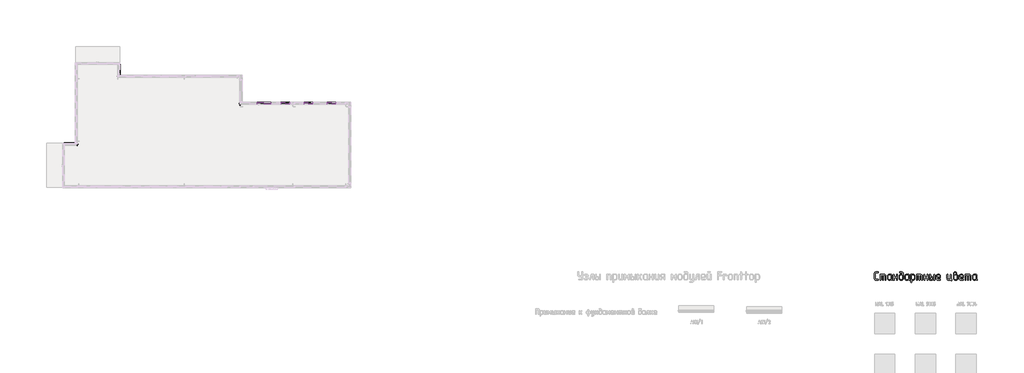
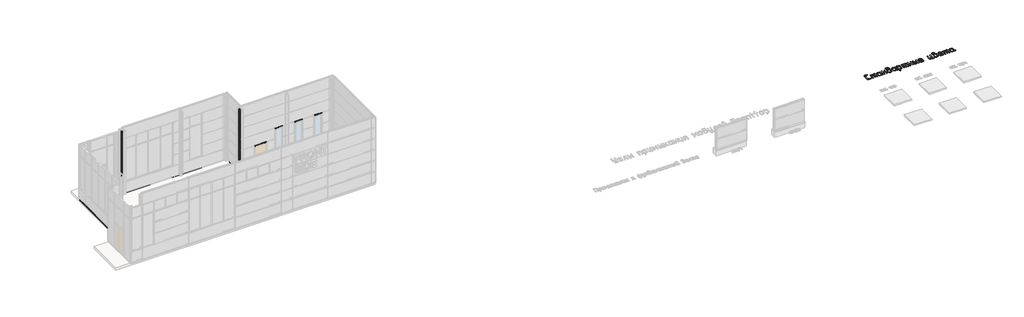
# One storey, part 37 of 37: 25 proxies.
"""IFC4 building model written with IfcOpenShell, lengths in millimetres."""

from ifc_helpers import new_model, si_unit, origin, origin_with_axes, place, context, project, spatial, polyline, outline, extrude, transform, mapped, element, save
from components import generic_models_0364e8e2, generic_models_ac934b32, generic_models_68cd8cda, generic_models_938f7fc3, generic_models_05f7afde, generic_models_0874c4ac, generic_models_85b5dc57, generic_models_e5b9f5c1, generic_models_aaec1445, generic_models_23c99c47, generic_models_617ec701, generic_models_ad8da9b4, generic_models_942eae3e, generic_models_0b12393e, generic_models_e6ec2b4e, generic_models_17419d64, generic_models_769ca0ed, generic_models_10c6125d, generic_models_694dab97

model = new_model("IFC4")

# Units and contexts
model_context = context("Model", 3, world=origin())
ifc_project = project(units=[si_unit("LENGTHUNIT", "METRE", prefix="MILLI")], contexts=[model_context])

# Site, building, storey
site = spatial("IfcSite", under=ifc_project)
building = spatial("IfcBuilding", under=site)
storey = spatial("IfcBuildingStorey", under=building, Name="Этаж 01", Elevation=0.0)

# Proxies
placement = place(None, origin())
element("IfcBuildingElementProxy", 1, Name="600 мм ГОСТ 2.304", ObjectType="600 мм ГОСТ 2.304", at=placement, inside=storey, context=model_context, shape_type="SweptSolid", body=[
    extrude(outline(polyline([(60516.7552555, -6953.9074538), (60365.6845911, -6953.9074538), (60341.4446508, -6951.7555311), (60319.081718, -6945.2997629), (60298.5957927, -6934.5401492), (60279.9868748, -6919.47669), (60264.5252625, -6900.8108931), (60253.4812538, -6880.1543308), (60246.8548485, -6857.5070029), (60244.6460467, -6832.8689095), (60244.6460467, -6470.6633406), (60246.8548485, -6446.4234003), (60253.4812538, -6424.0604675), (60264.5252625, -6403.5745421), (60279.9868748, -6384.9656243), (60298.5957927, -6369.504012), (60319.081718, -6358.4600032), (60341.4446508, -6351.833598), (60365.6845911, -6349.6247962), (60516.7552555, -6349.6247962), (60529.894308, -6351.8430778), (60539.2793455, -6358.4979226), (60544.910368, -6368.4517503), (60546.7873755, -6380.5669805), (60544.79661, -6391.5256708), (60538.8243134, -6401.3467807), (60529.3255179, -6408.2860206), (60516.7552555, -6410.5991005), (60365.6845911, -6410.5991005), (60342.1556385, -6414.902946), (60322.835733, -6427.8144825), (60309.9241965, -6447.134388), (60305.620351, -6470.6633406), (60305.620351, -6832.8689095), (60309.9241965, -6856.5116201), (60322.835733, -6876.1727997), (60342.1556385, -6889.4256103), (60365.6845911, -6893.8432138), (60516.7552555, -6893.8432138), (60529.894308, -6895.9477373), (60539.2793455, -6902.261308), (60544.910368, -6911.8738616), (60546.7873755, -6923.8753338), (60544.79661, -6934.8340241), (60538.8243134, -6944.655134), (60529.3255179, -6951.5943739), (60516.7552555, -6953.9074538)])), origin_with_axes(), (0.0, 0.0, 1.0), 20.0),
    extrude(outline(polyline([(60852.8723161, -6591.701885), (60732.7438359, -6591.701885), (60732.7438359, -6923.8753338), (60730.6393124, -6937.0143863), (60724.3257417, -6946.3994238), (60714.7131881, -6952.0304463), (60702.7117159, -6953.9074538), (60691.0704775, -6951.9166883), (60681.0218514, -6945.9443917), (60674.0826116, -6936.4455962), (60671.7695316, -6923.8753338), (60671.7695316, -6561.6697649), (60673.7034181, -6548.5307124), (60679.5050777, -6539.1456749), (60689.1745103, -6533.5146524), (60702.7117159, -6531.6376449), (60973.9108604, -6531.6376449), (60998.4920748, -6533.7895676), (61020.9687657, -6540.2453359), (61041.340933, -6551.0049496), (61059.6085767, -6566.0684088), (61075.070189, -6584.6773266), (61086.1141978, -6605.1632519), (61092.7406031, -6627.5261847), (61094.9494048, -6651.766125), (61094.9494048, -6923.8753338), (61092.8448813, -6937.0143863), (61086.5313106, -6946.3994238), (61076.918757, -6952.0304463), (61064.9172848, -6953.9074538), (61053.2760463, -6951.9166883), (61043.2274203, -6945.9443917), (61036.2881805, -6936.4455962), (61033.9751005, -6923.8753338), (61033.9751005, -6651.766125), (61029.671255, -6628.8059626), (61016.7597186, -6609.372299), (60997.4398131, -6596.1194885), (60973.9108604, -6591.701885), (60913.8466204, -6591.701885), (60913.8466204, -6923.8753338), (60911.7420968, -6937.0143863), (60905.4285261, -6946.3994238), (60895.8159726, -6952.0304463), (60883.8145003, -6953.9074538), (60872.1732619, -6951.9166883), (60862.1246359, -6945.9443917), (60855.185396, -6936.4455962), (60852.8723161, -6923.8753338), (60852.8723161, -6591.701885)])), origin_with_axes(), (0.0, 0.0, 1.0), 20.0),
    extrude(outline(polyline([(61486.5803842, -6914.1679819), (61468.6824541, -6930.1320255), (61446.8409123, -6942.8350055), (61422.3450164, -6951.1393418), (61396.4840241, -6953.9074538), (61336.4197841, -6953.9074538), (61312.1798437, -6951.7555311), (61289.8169109, -6945.2997629), (61269.3309856, -6934.5401492), (61250.7220678, -6919.47669), (61235.2604555, -6900.8108931), (61224.2164467, -6880.1543308), (61217.5900414, -6857.5070029), (61215.3812397, -6832.8689095), (61215.3812397, -6651.766125), (61217.5900414, -6627.9243378), (61224.2164467, -6605.8458001), (61235.2604555, -6585.5305118), (61250.7220678, -6566.978473), (61269.3309856, -6551.5168607), (61289.8169109, -6540.4728519), (61312.1798437, -6533.8464467), (61336.4197841, -6531.6376449), (61487.4904485, -6531.6376449), (61500.629501, -6533.5146524), (61510.0145385, -6539.1456749), (61515.645561, -6548.5307124), (61517.5225685, -6561.6697649), (61517.5225685, -6832.8689095), (61520.3854789, -6852.416331), (61528.9742102, -6870.4090595), (61542.2270208, -6885.5199179), (61559.082169, -6896.4217291), (61573.6431968, -6907.0770646), (61578.4968728, -6922.9652696), (61576.3923492, -6934.720266), (61570.0787786, -6945.1101662), (61560.466225, -6952.3906801), (61548.4647528, -6954.8175181), (61536.0272081, -6951.3289385), (61508.19441, -6935.3648949), (61486.5803842, -6914.1679819)]), holes=[polyline([(61457.4583284, -6832.8689095), (61457.4583284, -6591.701885), (61336.4197841, -6591.701885), (61312.8908314, -6596.1194885), (61293.5709259, -6609.372299), (61280.6593895, -6628.8059626), (61276.355544, -6651.766125), (61276.355544, -6832.8689095), (61280.6593895, -6856.5116201), (61293.5709259, -6876.1727997), (61312.8908314, -6889.4256103), (61336.4197841, -6893.8432138), (61396.4840241, -6893.8432138), (61420.1267348, -6889.4256103), (61439.7879144, -6876.1727997), (61453.0407249, -6856.5116201), (61457.4583284, -6832.8689095)])]), origin_with_axes(), (0.0, 0.0, 1.0), 20.0),
    extrude(outline(polyline([(61884.5818133, -6712.7404293), (61884.5818133, -6561.6697649), (61886.7811353, -6549.0995026), (61893.379101, -6539.600707), (61903.086453, -6533.6284104), (61914.6139334, -6531.6376449), (61926.0466154, -6533.5146524), (61935.772927, -6539.1456749), (61942.4277718, -6548.5307124), (61944.6460534, -6561.6697649), (61944.6460534, -6923.8753338), (61942.5415298, -6937.0143863), (61936.2279592, -6946.3994238), (61926.6154056, -6952.0304463), (61914.6139334, -6953.9074538), (61903.086453, -6951.9166883), (61893.379101, -6945.9443917), (61886.7811353, -6936.4455962), (61884.5818133, -6923.8753338), (61884.5818133, -6772.8046694), (61703.4790289, -6772.8046694), (61703.4790289, -6923.8753338), (61701.3745053, -6937.0143863), (61695.0609347, -6946.3994238), (61685.4483811, -6952.0304463), (61673.4469089, -6953.9074538), (61661.8056704, -6951.9166883), (61651.7570444, -6945.9443917), (61644.8178045, -6936.4455962), (61642.5047246, -6923.8753338), (61642.5047246, -6561.6697649), (61644.7230062, -6549.0995026), (61651.377851, -6539.600707), (61661.3316786, -6533.6284104), (61673.4469089, -6531.6376449), (61684.4055991, -6533.5146524), (61694.2267091, -6539.1456749), (61701.165949, -6548.5307124), (61703.4790289, -6561.6697649), (61703.4790289, -6712.7404293), (61884.5818133, -6712.7404293)])), origin_with_axes(), (0.0, 0.0, 1.0), 20.0),
    extrude(outline(polyline([(62311.7052983, -6531.6376449), (62311.7052983, -6470.6633406), (62307.2876947, -6447.134388), (62294.0348842, -6427.8144825), (62274.3737046, -6414.902946), (62250.7309939, -6410.5991005), (62130.6025138, -6410.5991005), (62118.0322515, -6408.3997786), (62108.5334559, -6401.8018128), (62102.5611593, -6392.0944609), (62100.5703938, -6380.5669805), (62102.4474013, -6369.0205404), (62108.0784238, -6358.9529547), (62117.4634613, -6351.9568358), (62130.6025138, -6349.6247962), (62250.7309939, -6349.6247962), (62275.3122083, -6351.833598), (62297.7888992, -6358.4600032), (62318.1610665, -6369.504012), (62336.4287102, -6384.9656243), (62351.8903225, -6403.5745421), (62362.9343313, -6424.0604675), (62369.5607366, -6446.4234003), (62371.7695383, -6470.6633406), (62371.7695383, -6832.8689095), (62369.5607366, -6857.5070029), (62362.9343313, -6880.1543308), (62351.8903225, -6900.8108931), (62336.4287102, -6919.47669), (62318.1610665, -6934.5401492), (62297.7888992, -6945.2997629), (62275.3122083, -6951.7555311), (62250.7309939, -6953.9074538), (62190.6667539, -6953.9074538), (62166.4268136, -6951.7555311), (62144.0638807, -6945.2997629), (62123.5779554, -6934.5401492), (62104.9690376, -6919.47669), (62089.5074253, -6900.8108931), (62078.4634165, -6880.1543308), (62071.8370113, -6857.5070029), (62069.6282095, -6832.8689095), (62069.6282095, -6651.766125), (62071.8370113, -6627.9243378), (62078.4634165, -6605.8458001), (62089.5074253, -6585.5305118), (62104.9690376, -6566.978473), (62123.5779554, -6551.5168607), (62144.0638807, -6540.4728519), (62166.4268136, -6533.8464467), (62190.6667539, -6531.6376449), (62311.7052983, -6531.6376449)]), holes=[polyline([(62311.7052983, -6591.701885), (62190.6667539, -6591.701885), (62167.1378013, -6596.1194885), (62147.8178957, -6609.372299), (62134.9063593, -6628.8059626), (62130.6025138, -6651.766125), (62130.6025138, -6832.8689095), (62134.9063593, -6856.5116201), (62147.8178957, -6876.1727997), (62167.1378013, -6889.4256103), (62190.6667539, -6893.8432138), (62250.7309939, -6893.8432138), (62274.3737046, -6889.4256103), (62294.0348842, -6876.1727997), (62307.2876947, -6856.5116201), (62311.7052983, -6832.8689095), (62311.7052983, -6591.701885)])]), origin_with_axes(), (0.0, 0.0, 1.0), 20.0),
    extrude(outline(polyline([(62767.9508389, -6914.1679819), (62750.0529088, -6930.1320255), (62728.211367, -6942.8350055), (62703.7154711, -6951.1393418), (62677.8544788, -6953.9074538), (62617.7902388, -6953.9074538), (62593.5502985, -6951.7555311), (62571.1873657, -6945.2997629), (62550.7014403, -6934.5401492), (62532.0925225, -6919.47669), (62516.6309102, -6900.8108931), (62505.5869014, -6880.1543308), (62498.9604962, -6857.5070029), (62496.7516944, -6832.8689095), (62496.7516944, -6651.766125), (62498.9604962, -6627.9243378), (62505.5869014, -6605.8458001), (62516.6309102, -6585.5305118), (62532.0925225, -6566.978473), (62550.7014403, -6551.5168607), (62571.1873657, -6540.4728519), (62593.5502985, -6533.8464467), (62617.7902388, -6531.6376449), (62768.8609032, -6531.6376449), (62781.9999557, -6533.5146524), (62791.3849932, -6539.1456749), (62797.0160157, -6548.5307124), (62798.8930232, -6561.6697649), (62798.8930232, -6832.8689095), (62801.7559337, -6852.416331), (62810.344665, -6870.4090595), (62823.5974755, -6885.5199179), (62840.4526237, -6896.4217291), (62855.0136516, -6907.0770646), (62859.8673275, -6922.9652696), (62857.762804, -6934.720266), (62851.4492333, -6945.1101662), (62841.8366797, -6952.3906801), (62829.8352075, -6954.8175181), (62817.3976628, -6951.3289385), (62789.5648647, -6935.3648949), (62767.9508389, -6914.1679819)]), holes=[polyline([(62738.8287832, -6832.8689095), (62738.8287832, -6591.701885), (62617.7902388, -6591.701885), (62594.2612862, -6596.1194885), (62574.9413807, -6609.372299), (62562.0298442, -6628.8059626), (62557.7259987, -6651.766125), (62557.7259987, -6832.8689095), (62562.0298442, -6856.5116201), (62574.9413807, -6876.1727997), (62594.2612862, -6889.4256103), (62617.7902388, -6893.8432138), (62677.8544788, -6893.8432138), (62701.4971895, -6889.4256103), (62721.1583691, -6876.1727997), (62734.4111796, -6856.5116201), (62738.8287832, -6832.8689095)])]), origin_with_axes(), (0.0, 0.0, 1.0), 20.0),
    extrude(outline(polyline([(62984.8494836, -6953.9074538), (62984.8494836, -7104.9781182), (62982.7449601, -7118.1171708), (62976.4313894, -7127.5022083), (62966.8188358, -7133.1332308), (62954.8173636, -7135.0102383), (62943.1761251, -7133.0194727), (62933.1274991, -7127.0471761), (62926.1882593, -7117.5483806), (62923.8751793, -7104.9781182), (62923.8751793, -6561.6697649), (62925.8090658, -6548.5307124), (62931.6107254, -6539.1456749), (62941.280158, -6533.5146524), (62954.8173636, -6531.6376449), (63104.9779638, -6531.6376449), (63129.5591782, -6533.7895676), (63152.035869, -6540.2453359), (63172.4080363, -6551.0049496), (63190.67568, -6566.0684088), (63206.1372923, -6584.6773266), (63217.1813011, -6605.1632519), (63223.8077064, -6627.5261847), (63226.0165081, -6651.766125), (63226.0165081, -6832.8689095), (63223.8077064, -6857.5070029), (63217.1813011, -6880.1543308), (63206.1372923, -6900.8108931), (63190.67568, -6919.47669), (63172.4080363, -6934.5401492), (63152.035869, -6945.2997629), (63129.5591782, -6951.7555311), (63104.9779638, -6953.9074538), (62984.8494836, -6953.9074538)]), holes=[polyline([(62984.8494836, -6893.8432138), (63104.9779638, -6893.8432138), (63128.6206744, -6889.4256103), (63148.281854, -6876.1727997), (63161.5346645, -6856.5116201), (63165.9522681, -6832.8689095), (63165.9522681, -6651.766125), (63161.5346645, -6628.8059626), (63148.281854, -6609.372299), (63128.6206744, -6596.1194885), (63104.9779638, -6591.701885), (62984.8494836, -6591.701885), (62984.8494836, -6893.8432138)])]), origin_with_axes(), (0.0, 0.0, 1.0), 20.0),
    extrude(outline(polyline([(63532.1014487, -6591.701885), (63411.9729685, -6591.701885), (63411.9729685, -6923.8753338), (63409.868445, -6937.0143863), (63403.5548743, -6946.3994238), (63393.9423207, -6952.0304463), (63381.9408485, -6953.9074538), (63370.2996101, -6951.9166883), (63360.250984, -6945.9443917), (63353.3117442, -6936.4455962), (63350.9986642, -6923.8753338), (63350.9986642, -6561.6697649), (63352.9325507, -6548.5307124), (63358.7342103, -6539.1456749), (63368.4036429, -6533.5146524), (63381.9408485, -6531.6376449), (63653.139993, -6531.6376449), (63677.7212074, -6533.7895676), (63700.1978983, -6540.2453359), (63720.5700656, -6551.0049496), (63738.8377093, -6566.0684088), (63754.2993216, -6584.6773266), (63765.3433304, -6605.1632519), (63771.9697356, -6627.5261847), (63774.1785374, -6651.766125), (63774.1785374, -6923.8753338), (63772.0740138, -6937.0143863), (63765.7604432, -6946.3994238), (63756.1478896, -6952.0304463), (63744.1464174, -6953.9074538), (63732.5051789, -6951.9166883), (63722.4565529, -6945.9443917), (63715.5173131, -6936.4455962), (63713.2042331, -6923.8753338), (63713.2042331, -6651.766125), (63708.9003876, -6628.8059626), (63695.9888512, -6609.372299), (63676.6689457, -6596.1194885), (63653.139993, -6591.701885), (63593.075753, -6591.701885), (63593.075753, -6923.8753338), (63590.9712294, -6937.0143863), (63584.6576587, -6946.3994238), (63575.0451051, -6952.0304463), (63563.0436329, -6953.9074538), (63551.4023945, -6951.9166883), (63541.3537685, -6945.9443917), (63534.4145286, -6936.4455962), (63532.1014487, -6923.8753338), (63532.1014487, -6591.701885)])), origin_with_axes(), (0.0, 0.0, 1.0), 20.0),
    extrude(outline(polyline([(64136.687461, -6712.7404293), (64136.687461, -6561.6697649), (64138.886783, -6549.0995026), (64145.4847487, -6539.600707), (64155.1921006, -6533.6284104), (64166.7195811, -6531.6376449), (64178.1522631, -6533.5146524), (64187.8785747, -6539.1456749), (64194.5334195, -6548.5307124), (64196.7517011, -6561.6697649), (64196.7517011, -6923.8753338), (64194.6471775, -6937.0143863), (64188.3336068, -6946.3994238), (64178.7210533, -6952.0304463), (64166.7195811, -6953.9074538), (64155.1921006, -6951.9166883), (64145.4847487, -6945.9443917), (64138.886783, -6936.4455962), (64136.687461, -6923.8753338), (64136.687461, -6772.8046694), (63955.5846766, -6772.8046694), (63955.5846766, -6923.8753338), (63953.480153, -6937.0143863), (63947.1665823, -6946.3994238), (63937.5540288, -6952.0304463), (63925.5525566, -6953.9074538), (63913.9113181, -6951.9166883), (63903.8626921, -6945.9443917), (63896.9234522, -6936.4455962), (63894.6103723, -6923.8753338), (63894.6103723, -6561.6697649), (63896.8286539, -6549.0995026), (63903.4834987, -6539.600707), (63913.4373263, -6533.6284104), (63925.5525566, -6531.6376449), (63936.5112468, -6533.5146524), (63946.3323568, -6539.1456749), (63953.2715966, -6548.5307124), (63955.5846766, -6561.6697649), (63955.5846766, -6712.7404293), (64136.687461, -6712.7404293)])), origin_with_axes(), (0.0, 0.0, 1.0), 20.0),
    extrude(outline(polyline([(64683.9394261, -6923.8753338), (64681.8349025, -6937.0143863), (64675.5213318, -6946.3994238), (64665.9087782, -6952.0304463), (64653.907306, -6953.9074538), (64642.9486158, -6951.9166883), (64633.1275058, -6945.9443917), (64626.188266, -6936.4455962), (64623.875186, -6923.8753338), (64623.875186, -6561.6697649), (64626.0745079, -6549.0995026), (64632.6724737, -6539.600707), (64642.3798256, -6533.6284104), (64653.907306, -6531.6376449), (64665.3399881, -6533.5146524), (64675.0662997, -6539.1456749), (64681.7211445, -6548.5307124), (64683.9394261, -6561.6697649), (64683.9394261, -6923.8753338)])), origin_with_axes(), (0.0, 0.0, 1.0), 20.0),
    extrude(outline(polyline([(64382.7081615, -6712.7404293), (64442.7724016, -6712.7404293), (64469.9605708, -6715.0629891), (64494.1910313, -6722.0306685), (64515.463783, -6733.6434674), (64533.7788259, -6749.9013859), (64546.9178784, -6767.3158444), (64556.3029159, -6786.9485845), (64561.9339384, -6808.7996062), (64563.8109459, -6832.8689095), (64561.9339384, -6856.9476926), (64556.3029159, -6878.8271538), (64546.9178784, -6898.507293), (64533.7788259, -6915.9881104), (64515.8050571, -6932.5778231), (64494.6460634, -6944.427618), (64470.3018449, -6951.5374949), (64442.7724016, -6953.9074538), (64352.6760415, -6953.9074538), (64339.1388358, -6952.0304463), (64329.4694033, -6946.3994238), (64323.6677437, -6937.0143863), (64321.7338572, -6923.8753338), (64321.7338572, -6561.6697649), (64323.9521388, -6549.0995026), (64330.6069836, -6539.600707), (64340.5608112, -6533.6284104), (64352.6760415, -6531.6376449), (64363.6347317, -6533.5146524), (64373.4558417, -6539.1456749), (64380.3950815, -6548.5307124), (64382.7081615, -6561.6697649), (64382.7081615, -6712.7404293)]), holes=[polyline([(64382.7081615, -6772.8046694), (64382.7081615, -6893.8432138), (64442.7724016, -6893.8432138), (64467.9129263, -6889.3118522), (64486.9105174, -6875.7177676), (64498.8551106, -6855.94283), (64502.8366416, -6832.8689095), (64499.3101427, -6810.1173034), (64488.7306459, -6791.309309), (64469.2780227, -6777.4308293), (64442.7724016, -6772.8046694), (64382.7081615, -6772.8046694)])]), origin_with_axes(), (0.0, 0.0, 1.0), 20.0),
    extrude(outline(polyline([(64868.075758, -6772.8046694), (64868.075758, -6832.8689095), (64872.3796035, -6856.5116201), (64885.2911399, -6876.1727997), (64904.6110454, -6889.4256103), (64928.139998, -6893.8432138), (65079.2106625, -6893.8432138), (65092.349715, -6895.9477373), (65101.7347525, -6902.261308), (65107.365775, -6911.8738616), (65109.2427825, -6923.8753338), (65107.252017, -6934.8340241), (65101.2797204, -6944.655134), (65091.7809248, -6951.5943739), (65079.2106625, -6953.9074538), (64928.139998, -6953.9074538), (64903.9000577, -6951.7555311), (64881.5371249, -6945.2997629), (64861.0511996, -6934.5401492), (64842.4422818, -6919.47669), (64826.9806695, -6900.8108931), (64815.9366607, -6880.1543308), (64809.3102554, -6857.5070029), (64807.1014537, -6832.8689095), (64807.1014537, -6651.766125), (64809.3102554, -6627.5830637), (64815.9366607, -6605.390768), (64826.9806695, -6585.1892377), (64842.4422818, -6566.978473), (64861.0511996, -6551.5168607), (64881.5371249, -6540.4728519), (64903.9000577, -6533.8464467), (64928.139998, -6531.6376449), (64988.2042381, -6531.6376449), (65012.7854525, -6533.7895676), (65035.2621434, -6540.2453359), (65055.6343106, -6551.0049496), (65073.9019544, -6566.0684088), (65089.3635667, -6584.6773266), (65100.4075755, -6605.1632519), (65107.0339807, -6627.5261847), (65109.2427825, -6651.766125), (65109.2427825, -6742.7725494), (65107.365775, -6755.9116019), (65101.7347525, -6765.2966394), (65092.349715, -6770.9276619), (65079.2106625, -6772.8046694), (64868.075758, -6772.8046694)]), holes=[polyline([(64868.075758, -6712.7404293), (65049.1785424, -6712.7404293), (65049.1785424, -6651.766125), (65044.7609389, -6628.8059626), (65031.5081284, -6609.372299), (65011.8469488, -6596.1194885), (64988.2042381, -6591.701885), (64928.139998, -6591.701885), (64904.6110454, -6596.1194885), (64885.2911399, -6609.372299), (64872.3796035, -6628.8059626), (64868.075758, -6651.766125), (64868.075758, -6712.7404293)])]), origin_with_axes(), (0.0, 0.0, 1.0), 20.0),
    extrude(outline(polyline([(65835.4740487, -6893.8432138), (65835.4740487, -6561.6697649), (65837.6733706, -6549.0995026), (65844.2713364, -6539.600707), (65853.9786883, -6533.6284104), (65865.5061688, -6531.6376449), (65876.9388508, -6533.5146524), (65886.6651624, -6539.1456749), (65893.3200072, -6548.5307124), (65895.5382888, -6561.6697649), (65895.5382888, -6893.8432138), (65925.5704088, -6893.8432138), (65938.7094613, -6895.7202213), (65948.0944988, -6901.3512438), (65953.7255214, -6910.7362813), (65955.6025289, -6923.8753338), (65955.6025289, -6977.7208015), (65953.4980053, -6990.9736121), (65947.1844346, -7000.6999237), (65937.571881, -7006.6722203), (65925.5704088, -7008.6629858), (65914.6117186, -7006.6722203), (65904.7906086, -7000.6999237), (65897.8513687, -6990.9736121), (65895.5382888, -6977.7208015), (65895.5382888, -6953.9074538), (65714.4355044, -6953.9074538), (65690.195564, -6951.7555311), (65667.8326312, -6945.2997629), (65647.3467059, -6934.5401492), (65628.7377881, -6919.47669), (65613.2761758, -6900.8108931), (65602.232167, -6880.1543308), (65595.6057617, -6857.5070029), (65593.39696, -6832.8689095), (65593.39696, -6561.6697649), (65595.6152416, -6549.0995026), (65602.2700864, -6539.600707), (65612.223914, -6533.6284104), (65624.3391443, -6531.6376449), (65635.2978345, -6533.5146524), (65645.1189445, -6539.1456749), (65652.0581843, -6548.5307124), (65654.3712643, -6561.6697649), (65654.3712643, -6832.8689095), (65658.6751098, -6856.5116201), (65671.5866462, -6876.1727997), (65690.9065517, -6889.4256103), (65714.4355044, -6893.8432138), (65835.4740487, -6893.8432138)])), origin_with_axes(), (0.0, 0.0, 1.0), 20.0),
    extrude(outline(polyline([(66259.8673409, -6533.4577734), (66287.1123892, -6535.6096961), (66311.3618093, -6542.0654644), (66332.6156014, -6552.8250781), (66350.8737652, -6567.8885373), (66364.0128178, -6584.7342056), (66373.3978553, -6604.3290263), (66379.0288778, -6626.6729995), (66380.9058853, -6651.766125), (66380.9058853, -6832.8689095), (66378.6970835, -6857.5070029), (66372.0706782, -6880.1543308), (66361.0266695, -6900.8108931), (66345.5650572, -6919.47669), (66327.2974134, -6934.5401492), (66306.9252462, -6945.2997629), (66284.4485553, -6951.7555311), (66259.8673409, -6953.9074538), (66199.8031008, -6953.9074538), (66175.5631605, -6951.7555311), (66153.2002277, -6945.2997629), (66132.7143024, -6934.5401492), (66114.1053846, -6919.47669), (66098.6437723, -6900.8108931), (66087.5997635, -6880.1543308), (66080.9733582, -6857.5070029), (66078.7645565, -6832.8689095), (66078.7645565, -6459.2875375), (66080.9164792, -6434.9243594), (66087.3722474, -6413.1017772), (66098.1318611, -6393.819791), (66113.1953203, -6377.0784009), (66129.1498841, -6365.0674488), (66146.9814554, -6356.4881974), (66166.6900341, -6351.3406465), (66188.2756204, -6349.6247962), (66209.4630536, -6351.3406465), (66228.8872373, -6356.4881974), (66246.5481715, -6365.0674488), (66262.4458563, -6377.0784009), (66277.1775212, -6393.762912), (66287.700139, -6412.8742611), (66294.0137097, -6434.4124482), (66296.1182333, -6458.3774733), (66294.0137097, -6483.1577643), (66287.700139, -6502.8947825), (66276.5328924, -6519.1432212), (66259.8673409, -6533.4577734)]), holes=[polyline([(66320.8416452, -6832.8689095), (66320.8416452, -6651.766125), (66316.4240417, -6628.8059626), (66303.1712311, -6609.372299), (66283.5100516, -6596.1194885), (66259.8673409, -6591.701885), (66199.8031008, -6591.701885), (66176.2741482, -6596.1194885), (66156.9542427, -6609.372299), (66144.0427063, -6628.8059626), (66139.7388608, -6651.766125), (66139.7388608, -6832.8689095), (66144.0427063, -6856.5116201), (66156.9542427, -6876.1727997), (66176.2741482, -6889.4256103), (66199.8031008, -6893.8432138), (66259.8673409, -6893.8432138), (66283.5100516, -6889.4256103), (66303.1712311, -6876.1727997), (66316.4240417, -6856.5116201), (66320.8416452, -6832.8689095)]), polyline([(66139.7388608, -6551.962413), (66153.8448565, -6543.6201574), (66164.4622727, -6536.0362887), (66184.7870408, -6521.4752608), (66199.8031008, -6510.4028126), (66224.5265128, -6488.4095933), (66233.1721231, -6474.0760815), (66236.0539932, -6459.2875375), (66232.4137362, -6438.9058904), (66221.4929653, -6423.8708707), (66205.6805991, -6414.5995913), (66187.3655562, -6411.5091648), (66169.2780293, -6414.5995913), (66153.8448565, -6423.8708707), (66143.2653597, -6438.9058904), (66139.7388608, -6459.2875375), (66139.7388608, -6551.962413)])]), origin_with_axes(), (0.0, 0.0, 1.0), 20.0),
    extrude(outline(polyline([(66566.8623457, -6772.8046694), (66566.8623457, -6832.8689095), (66571.1661912, -6856.5116201), (66584.0777276, -6876.1727997), (66603.3976331, -6889.4256103), (66626.9265857, -6893.8432138), (66777.9972501, -6893.8432138), (66791.1363027, -6895.9477373), (66800.5213402, -6902.261308), (66806.1523627, -6911.8738616), (66808.0293702, -6923.8753338), (66806.0386046, -6934.8340241), (66800.0663081, -6944.655134), (66790.5675125, -6951.5943739), (66777.9972501, -6953.9074538), (66626.9265857, -6953.9074538), (66602.6866454, -6951.7555311), (66580.3237126, -6945.2997629), (66559.8377873, -6934.5401492), (66541.2288695, -6919.47669), (66525.7672572, -6900.8108931), (66514.7232484, -6880.1543308), (66508.0968431, -6857.5070029), (66505.8880414, -6832.8689095), (66505.8880414, -6651.766125), (66508.0968431, -6627.5830637), (66514.7232484, -6605.390768), (66525.7672572, -6585.1892377), (66541.2288695, -6566.978473), (66559.8377873, -6551.5168607), (66580.3237126, -6540.4728519), (66602.6866454, -6533.8464467), (66626.9265857, -6531.6376449), (66686.9908258, -6531.6376449), (66711.5720402, -6533.7895676), (66734.0487311, -6540.2453359), (66754.4208983, -6551.0049496), (66772.6885421, -6566.0684088), (66788.1501544, -6584.6773266), (66799.1941632, -6605.1632519), (66805.8205684, -6627.5261847), (66808.0293702, -6651.766125), (66808.0293702, -6742.7725494), (66806.1523627, -6755.9116019), (66800.5213402, -6765.2966394), (66791.1363027, -6770.9276619), (66777.9972501, -6772.8046694), (66566.8623457, -6772.8046694)]), holes=[polyline([(66566.8623457, -6712.7404293), (66747.9651301, -6712.7404293), (66747.9651301, -6651.766125), (66743.5475266, -6628.8059626), (66730.2947161, -6609.372299), (66710.6335365, -6596.1194885), (66686.9908258, -6591.701885), (66626.9265857, -6591.701885), (66603.3976331, -6596.1194885), (66584.0777276, -6609.372299), (66571.1661912, -6628.8059626), (66566.8623457, -6651.766125), (66566.8623457, -6712.7404293)])]), origin_with_axes(), (0.0, 0.0, 1.0), 20.0),
    extrude(outline(polyline([(67114.1143107, -6591.701885), (66993.9858306, -6591.701885), (66993.9858306, -6923.8753338), (66991.881307, -6937.0143863), (66985.5677363, -6946.3994238), (66975.9551828, -6952.0304463), (66963.9537106, -6953.9074538), (66952.3124721, -6951.9166883), (66942.2638461, -6945.9443917), (66935.3246062, -6936.4455962), (66933.0115263, -6923.8753338), (66933.0115263, -6561.6697649), (66934.9454128, -6548.5307124), (66940.7470723, -6539.1456749), (66950.4165049, -6533.5146524), (66963.9537106, -6531.6376449), (67235.1528551, -6531.6376449), (67259.7340695, -6533.7895676), (67282.2107603, -6540.2453359), (67302.5829276, -6551.0049496), (67320.8505713, -6566.0684088), (67336.3121836, -6584.6773266), (67347.3561924, -6605.1632519), (67353.9825977, -6627.5261847), (67356.1913995, -6651.766125), (67356.1913995, -6923.8753338), (67354.0868759, -6937.0143863), (67347.7733052, -6946.3994238), (67338.1607516, -6952.0304463), (67326.1592794, -6953.9074538), (67314.518041, -6951.9166883), (67304.469415, -6945.9443917), (67297.5301751, -6936.4455962), (67295.2170952, -6923.8753338), (67295.2170952, -6651.766125), (67290.9132497, -6628.8059626), (67278.0017132, -6609.372299), (67258.6818077, -6596.1194885), (67235.1528551, -6591.701885), (67175.088615, -6591.701885), (67175.088615, -6923.8753338), (67172.9840915, -6937.0143863), (67166.6705208, -6946.3994238), (67157.0579672, -6952.0304463), (67145.056495, -6953.9074538), (67133.4152565, -6951.9166883), (67123.3666305, -6945.9443917), (67116.4273907, -6936.4455962), (67114.1143107, -6923.8753338), (67114.1143107, -6591.701885)])), origin_with_axes(), (0.0, 0.0, 1.0), 20.0),
    extrude(outline(polyline([(67747.8223789, -6914.1679819), (67729.9244488, -6930.1320255), (67708.0829069, -6942.8350055), (67683.587011, -6951.1393418), (67657.7260188, -6953.9074538), (67597.6617787, -6953.9074538), (67573.4218384, -6951.7555311), (67551.0589056, -6945.2997629), (67530.5729803, -6934.5401492), (67511.9640625, -6919.47669), (67496.5024502, -6900.8108931), (67485.4584414, -6880.1543308), (67478.8320361, -6857.5070029), (67476.6232343, -6832.8689095), (67476.6232343, -6651.766125), (67478.8320361, -6627.9243378), (67485.4584414, -6605.8458001), (67496.5024502, -6585.5305118), (67511.9640625, -6566.978473), (67530.5729803, -6551.5168607), (67551.0589056, -6540.4728519), (67573.4218384, -6533.8464467), (67597.6617787, -6531.6376449), (67748.7324431, -6531.6376449), (67761.8714956, -6533.5146524), (67771.2565331, -6539.1456749), (67776.8875556, -6548.5307124), (67778.7645631, -6561.6697649), (67778.7645631, -6832.8689095), (67781.6274736, -6852.416331), (67790.2162049, -6870.4090595), (67803.4690154, -6885.5199179), (67820.3241636, -6896.4217291), (67834.8851915, -6907.0770646), (67839.7388675, -6922.9652696), (67837.6343439, -6934.720266), (67831.3207732, -6945.1101662), (67821.7082196, -6952.3906801), (67809.7067474, -6954.8175181), (67797.2692028, -6951.3289385), (67769.4364047, -6935.3648949), (67747.8223789, -6914.1679819)]), holes=[polyline([(67718.7003231, -6832.8689095), (67718.7003231, -6591.701885), (67597.6617787, -6591.701885), (67574.1328261, -6596.1194885), (67554.8129206, -6609.372299), (67541.9013841, -6628.8059626), (67537.5975386, -6651.766125), (67537.5975386, -6832.8689095), (67541.9013841, -6856.5116201), (67554.8129206, -6876.1727997), (67574.1328261, -6889.4256103), (67597.6617787, -6893.8432138), (67657.7260188, -6893.8432138), (67681.3687294, -6889.4256103), (67701.029909, -6876.1727997), (67714.2827196, -6856.5116201), (67718.7003231, -6832.8689095)])]), origin_with_axes(), (0.0, 0.0, 1.0), 20.0),
])
generic_models_shape = generic_models_0364e8e2(model_context)
element("IfcBuildingElementProxy", 2, Name="АК1_1 Примыкание к фундаментной балке : АК1_1 Примыкание к фундаментной балке", ObjectType="АК1_1 Примыкание к фундаментной балке : АК1_1 Примыкание к фундаментной балке", at=placement, inside=storey, context=model_context, shape_type="MappedRepresentation", body=[
    mapped(generic_models_shape, transform((21620.0, 6120.0, 0.0), x_axis=(-1.0, 0.0, 0.0), y_axis=(0.0, -1.0, 0.0), z_axis=(0.0, 0.0, 1.0))),
])
generic_models_2_shape = generic_models_ac934b32(model_context)
element("IfcBuildingElementProxy", 3, Name="АК1_1 Примыкание к фундаментной балке : АК1_1 Примыкание к фундаментной балке", ObjectType="АК1_1 Примыкание к фундаментной балке : АК1_1 Примыкание к фундаментной балке", at=placement, inside=storey, context=model_context, shape_type="MappedRepresentation", body=[
    mapped(generic_models_2_shape, transform((13620.0578348, 6120.0, 0.0), x_axis=(0.0, 1.0, 0.0), y_axis=(-1.0, 0.0, 0.0), z_axis=(0.0, 0.0, 1.0))),
])
generic_models_3_shape = generic_models_68cd8cda(model_context)
element("IfcBuildingElementProxy", 4, Name="АК1_1 Примыкание к фундаментной балке : АК1_1 Примыкание к фундаментной балке", ObjectType="АК1_1 Примыкание к фундаментной балке : АК1_1 Примыкание к фундаментной балке", at=placement, inside=storey, context=model_context, shape_type="MappedRepresentation", body=[
    mapped(generic_models_3_shape, transform((13620.0578348, 8120.0, 0.0), x_axis=(-1.0, 0.0, 0.0), y_axis=(0.0, -1.0, 0.0), z_axis=(0.0, 0.0, 1.0))),
])
generic_models_4_shape = generic_models_938f7fc3(model_context)
element("IfcBuildingElementProxy", 5, Name="АК1_1 Примыкание к фундаментной балке : АК1_1 Примыкание к фундаментной балке", ObjectType="АК1_1 Примыкание к фундаментной балке : АК1_1 Примыкание к фундаментной балке", at=placement, inside=storey, context=model_context, shape_type="MappedRepresentation", body=[
    mapped(generic_models_4_shape, transform((4620.0, 8120.0, 0.0), x_axis=(0.0, 1.0, 0.0), y_axis=(-1.0, 0.0, 0.0), z_axis=(0.0, 0.0, 1.0))),
])
element("IfcBuildingElementProxy", 6, Name="АК1_1 Примыкание к фундаментной балке : АК1_1 Примыкание к фундаментной балке", ObjectType="АК1_1 Примыкание к фундаментной балке : АК1_1 Примыкание к фундаментной балке", at=placement, inside=storey, context=model_context, shape_type="MappedRepresentation", body=[
    mapped(generic_models_4_shape, transform((1380.0, 3120.0, 0.0), x_axis=(-1.0, 0.0, 0.0), y_axis=(0.0, -1.0, 0.0), z_axis=(0.0, 0.0, 1.0))),
])
generic_models_5_shape = generic_models_05f7afde(model_context)
element("IfcBuildingElementProxy", 7, Name="АК1_1 Примыкание к фундаментной балке : АК1_1 Примыкание к фундаментной балке", ObjectType="АК1_1 Примыкание к фундаментной балке : АК1_1 Примыкание к фундаментной балке", at=placement, inside=storey, context=model_context, shape_type="MappedRepresentation", body=[
    mapped(generic_models_5_shape, transform((1380.0, 8960.0, 0.0), x_axis=(0.0, -1.0, 0.0), y_axis=(1.0, 0.0, 0.0), z_axis=(0.0, 0.0, 1.0))),
])
generic_models_6_shape = generic_models_0874c4ac(model_context)
element("IfcBuildingElementProxy", 8, Name="АК3_1 Обрамление внутреннего угла : АК3_1 Обрамление внутреннего угла", ObjectType="АК3_1 Обрамление внутреннего угла : АК3_1 Обрамление внутреннего угла", at=placement, inside=storey, context=model_context, shape_type="MappedRepresentation", body=[
    mapped(generic_models_6_shape, transform((13500.1735992, 6065.0577046, 0.6641601), x_axis=(0.0, 0.0, 1.0), y_axis=(0.0, 1.0, 0.0), z_axis=(-1.0, 0.0, 0.0))),
])
generic_models_7_shape = generic_models_85b5dc57(model_context)
element("IfcBuildingElementProxy", 9, Name="АК3_1 Обрамление внутреннего угла : АК3_1 Обрамление внутреннего угла", ObjectType="АК3_1 Обрамление внутреннего угла : АК3_1 Обрамление внутреннего угла", at=placement, inside=storey, context=model_context, shape_type="MappedRepresentation", body=[
    mapped(generic_models_7_shape, transform((4500.0, 8065.0577046, 3.3441558), x_axis=(0.0, 0.0, 1.0), y_axis=(0.0, 1.0, 0.0), z_axis=(-1.0, 0.0, 0.0))),
])
generic_models_8_shape = generic_models_e5b9f5c1(model_context)
element("IfcBuildingElementProxy", 10, Name="АК3_1 Обрамление внутреннего угла : АК3_1 Обрамление внутреннего угла", ObjectType="АК3_1 Обрамление внутреннего угла : АК3_1 Обрамление внутреннего угла", at=placement, inside=storey, context=model_context, shape_type="MappedRepresentation", body=[
    mapped(generic_models_8_shape, transform((1500.0578348, 3065.0, 0.2672417), x_axis=(0.0, 0.0, 1.0), y_axis=(-1.0, 0.0, 0.0), z_axis=(0.0, -1.0, 0.0))),
])
generic_models_9_shape = generic_models_aaec1445(model_context)
element("IfcBuildingElementProxy", 11, Name="АК7_1 бок Обрамление оконного_дверного проема : АК7_1 бок Обрамление оконного_дверного проема", ObjectType="АК7_1 бок Обрамление оконного_дверного проема : АК7_1 бок Обрамление оконного_дверного проема", at=placement, inside=storey, context=model_context, shape_type="MappedRepresentation", body=[
    mapped(generic_models_9_shape, transform((20590.0, 6125.0, 997.0), x_axis=(0.0, 0.0, 1.0), y_axis=(1.0, 0.0, 0.0), z_axis=(0.0, 1.0, 0.0))),
])
generic_models_10_shape = generic_models_23c99c47(model_context)
element("IfcBuildingElementProxy", 12, Name="АК7_1 бок Обрамление оконного_дверного проема : АК7_1 бок Обрамление оконного_дверного проема", ObjectType="АК7_1 бок Обрамление оконного_дверного проема : АК7_1 бок Обрамление оконного_дверного проема", at=placement, inside=storey, context=model_context, shape_type="MappedRepresentation", body=[
    mapped(generic_models_10_shape, transform((19890.0, 6125.0, 997.0), x_axis=(0.0, 0.0, 1.0), y_axis=(1.0, 0.0, 0.0), z_axis=(0.0, 1.0, 0.0))),
])
generic_models_11_shape = generic_models_617ec701(model_context)
element("IfcBuildingElementProxy", 13, Name="АК7_1 низ Обрамление оконного_дверного проема : АК7_1 низ Обрамление оконного_дверного проема", ObjectType="АК7_1 низ Обрамление оконного_дверного проема : АК7_1 низ Обрамление оконного_дверного проема", at=placement, inside=storey, context=model_context, shape_type="MappedRepresentation", body=[
    mapped(generic_models_11_shape, transform((20547.5, 6150.0, 994.0), x_axis=(-1.0, 0.0, 0.0), y_axis=(0.0, 0.0, 1.0), z_axis=(0.0, 1.0, 0.0))),
])
element("IfcBuildingElementProxy", 14, Name="АК7_1 низ Обрамление оконного_дверного проема : АК7_1 низ Обрамление оконного_дверного проема", ObjectType="АК7_1 низ Обрамление оконного_дверного проема : АК7_1 низ Обрамление оконного_дверного проема", at=placement, inside=storey, context=model_context, shape_type="MappedRepresentation", body=[
    mapped(generic_models_11_shape, transform((18847.5, 6150.0, 993.9600528), x_axis=(-1.0, 0.0, 0.0), y_axis=(0.0, 0.0, 1.0), z_axis=(0.0, 1.0, 0.0))),
])
element("IfcBuildingElementProxy", 15, Name="АК7_1 низ Обрамление оконного_дверного проема : АК7_1 низ Обрамление оконного_дверного проема", ObjectType="АК7_1 низ Обрамление оконного_дверного проема : АК7_1 низ Обрамление оконного_дверного проема", at=placement, inside=storey, context=model_context, shape_type="MappedRepresentation", body=[
    mapped(generic_models_11_shape, transform((17147.5, 6150.0, 993.7100557), x_axis=(-1.0, 0.0, 0.0), y_axis=(0.0, 0.0, 1.0), z_axis=(0.0, 1.0, 0.0))),
])
generic_models_12_shape = generic_models_ad8da9b4(model_context)
element("IfcBuildingElementProxy", 16, Name="АК7_1 верх Обрамление оконного_дверного проема : АК7_1 верх Обрамление оконного_дверного проема", ObjectType="АК7_1 верх Обрамление оконного_дверного проема : АК7_1 верх Обрамление оконного_дверного проема", at=placement, inside=storey, context=model_context, shape_type="MappedRepresentation", body=[
    mapped(generic_models_12_shape, transform((20547.5, 6150.0, 3024.9974007), x_axis=(-1.0, 0.0, 0.0), y_axis=(0.0, 0.0, 1.0), z_axis=(0.0, 1.0, 0.0))),
])
element("IfcBuildingElementProxy", 17, Name="АК7_1 верх Обрамление оконного_дверного проема : АК7_1 верх Обрамление оконного_дверного проема", ObjectType="АК7_1 верх Обрамление оконного_дверного проема : АК7_1 верх Обрамление оконного_дверного проема", at=placement, inside=storey, context=model_context, shape_type="MappedRepresentation", body=[
    mapped(generic_models_12_shape, transform((18847.5, 6150.0, 3025.4430741), x_axis=(-1.0, 0.0, 0.0), y_axis=(0.0, 0.0, 1.0), z_axis=(0.0, 1.0, 0.0))),
])
element("IfcBuildingElementProxy", 18, Name="АК7_1 верх Обрамление оконного_дверного проема : АК7_1 верх Обрамление оконного_дверного проема", ObjectType="АК7_1 верх Обрамление оконного_дверного проема : АК7_1 верх Обрамление оконного_дверного проема", at=placement, inside=storey, context=model_context, shape_type="MappedRepresentation", body=[
    mapped(generic_models_12_shape, transform((17147.5, 6150.0, 3025.9447537), x_axis=(-1.0, 0.0, 0.0), y_axis=(0.0, 0.0, 1.0), z_axis=(0.0, 1.0, 0.0))),
])
generic_models_13_shape = generic_models_942eae3e(model_context)
element("IfcBuildingElementProxy", 19, Name="АК7_1 бок Обрамление оконного_дверного проема : АК7_1 бок Обрамление оконного_дверного проема", ObjectType="АК7_1 бок Обрамление оконного_дверного проема : АК7_1 бок Обрамление оконного_дверного проема", at=placement, inside=storey, context=model_context, shape_type="MappedRepresentation", body=[
    mapped(generic_models_13_shape, transform((18190.0, 6125.0, 997.0), x_axis=(0.0, 0.0, 1.0), y_axis=(1.0, 0.0, 0.0), z_axis=(0.0, 1.0, 0.0))),
])
generic_models_14_shape = generic_models_0b12393e(model_context)
element("IfcBuildingElementProxy", 20, Name="АК7_1 бок Обрамление оконного_дверного проема : АК7_1 бок Обрамление оконного_дверного проема", ObjectType="АК7_1 бок Обрамление оконного_дверного проема : АК7_1 бок Обрамление оконного_дверного проема", at=placement, inside=storey, context=model_context, shape_type="MappedRepresentation", body=[
    mapped(generic_models_14_shape, transform((18890.0, 6125.0, 997.0), x_axis=(0.0, 0.0, 1.0), y_axis=(1.0, 0.0, 0.0), z_axis=(0.0, 1.0, 0.0))),
])
generic_models_15_shape = generic_models_e6ec2b4e(model_context)
element("IfcBuildingElementProxy", 21, Name="АК7_1 бок Обрамление оконного_дверного проема : АК7_1 бок Обрамление оконного_дверного проема", ObjectType="АК7_1 бок Обрамление оконного_дверного проема : АК7_1 бок Обрамление оконного_дверного проема", at=placement, inside=storey, context=model_context, shape_type="MappedRepresentation", body=[
    mapped(generic_models_15_shape, transform((16490.0, 6125.0, 997.0), x_axis=(0.0, 0.0, 1.0), y_axis=(1.0, 0.0, 0.0), z_axis=(0.0, 1.0, 0.0))),
])
generic_models_16_shape = generic_models_17419d64(model_context)
element("IfcBuildingElementProxy", 22, Name="АК7_1 бок Обрамление оконного_дверного проема : АК7_1 бок Обрамление оконного_дверного проема", ObjectType="АК7_1 бок Обрамление оконного_дверного проема : АК7_1 бок Обрамление оконного_дверного проема", at=placement, inside=storey, context=model_context, shape_type="MappedRepresentation", body=[
    mapped(generic_models_16_shape, transform((17190.0, 6125.0, 997.0), x_axis=(0.0, 0.0, 1.0), y_axis=(1.0, 0.0, 0.0), z_axis=(0.0, 1.0, 0.0))),
])
generic_models_17_shape = generic_models_769ca0ed(model_context)
element("IfcBuildingElementProxy", 23, Name="АК7_1 бок Обрамление оконного_дверного проема : АК7_1 бок Обрамление оконного_дверного проема", ObjectType="АК7_1 бок Обрамление оконного_дверного проема : АК7_1 бок Обрамление оконного_дверного проема", at=placement, inside=storey, context=model_context, shape_type="MappedRepresentation", body=[
    mapped(generic_models_17_shape, transform((15789.9998455, 6125.0, 25.2513725), x_axis=(0.0, 0.0, 1.0), y_axis=(1.0, 0.0, 0.0), z_axis=(0.0, 1.0, 0.0))),
])
generic_models_18_shape = generic_models_10c6125d(model_context)
element("IfcBuildingElementProxy", 24, Name="АК7_1 бок Обрамление оконного_дверного проема : АК7_1 бок Обрамление оконного_дверного проема", ObjectType="АК7_1 бок Обрамление оконного_дверного проема : АК7_1 бок Обрамление оконного_дверного проема", at=placement, inside=storey, context=model_context, shape_type="MappedRepresentation", body=[
    mapped(generic_models_18_shape, transform((14730.0001545, 6124.9999552, 24.9933074), x_axis=(0.0, 0.0, 1.0), y_axis=(1.0, 0.0, 0.0), z_axis=(0.0, 1.0, 0.0))),
])
generic_models_19_shape = generic_models_694dab97(model_context)
element("IfcBuildingElementProxy", 25, Name="АК7_1 верх Обрамление оконного_дверного проема : АК7_1 верх Обрамление оконного_дверного проема", ObjectType="АК7_1 верх Обрамление оконного_дверного проема : АК7_1 верх Обрамление оконного_дверного проема", at=placement, inside=storey, context=model_context, shape_type="MappedRepresentation", body=[
    mapped(generic_models_19_shape, transform((15747.4998455, 6150.0, 2025.5701979), x_axis=(-1.0, 0.0, 0.0), y_axis=(0.0, 0.0, 1.0), z_axis=(0.0, 1.0, 0.0))),
])

save(model, "model.ifc")
